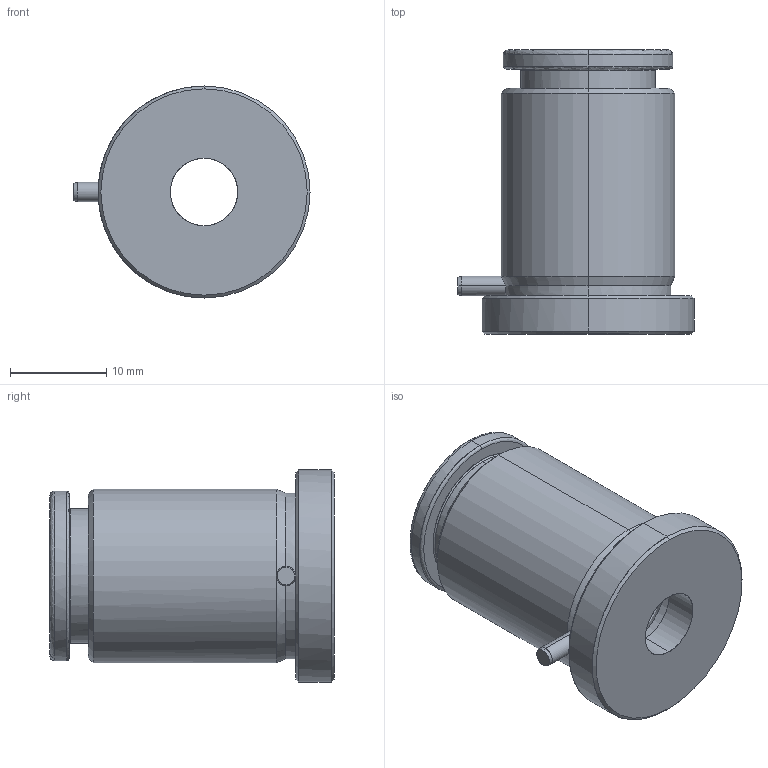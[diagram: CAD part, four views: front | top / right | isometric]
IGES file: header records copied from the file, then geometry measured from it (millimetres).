
Start section: START RECORD GO HERE.
Global section: file name: ba101822.igs; native system: DASSAULT SYSTEMES CATIA V5 R20 - www.3ds.com; preprocessor: CATIA Version 5 Release 20 ; author: Utente; organization: NB04-ASUS; date: 20201103.203558; units: millimetre
Bounding box: 24.5 x 29.5 x 22 mm (x, y, z)
Surface area: 6014.4 mm2 (no closed solid volume)
Topology: 0 solids, 0 shells, 323 faces, 1522 edges, 1440 vertices
Faces by surface type: revolution 253, bspline 54, plane 16
